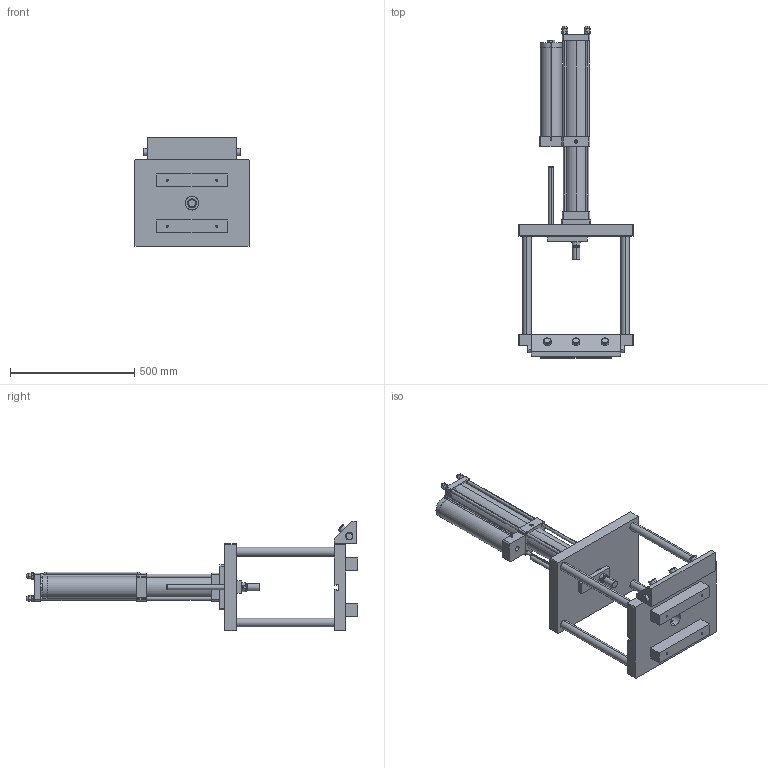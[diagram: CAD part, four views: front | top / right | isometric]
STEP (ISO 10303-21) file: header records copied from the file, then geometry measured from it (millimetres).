
FILE_DESCRIPTION (( 'STEP AP203' ), '1' );
FILE_NAME ('MMH-5T8T.STEP', '2016-03-29T07:42:08', ( 'WIN' ), ( '' ), 'SwSTEP 2.0', 'SolidWorks 2014', '' );
FILE_SCHEMA (( 'CONFIG_CONTROL_DESIGN' ));
Length unit declared in the file: millimetre
Products named in the file (1): MMH-5T8T
Bounding box: 460 x 1334.5 x 440 mm (x, y, z)
Volume: 23007979.5 mm3; surface area: 2108831.7 mm2
Topology: 1 solids, 8 shells, 597 faces, 1443 edges, 888 vertices
Faces by surface type: plane 313, cylinder 133, torus 80, cone 47, bspline 24
Entity records: 17781 total; most frequent: CARTESIAN_POINT 3583, DIRECTION 3076, ORIENTED_EDGE 2834, EDGE_CURVE 1417, AXIS2_PLACEMENT_3D 1125, VERTEX_POINT 888, VECTOR 826, LINE 826
